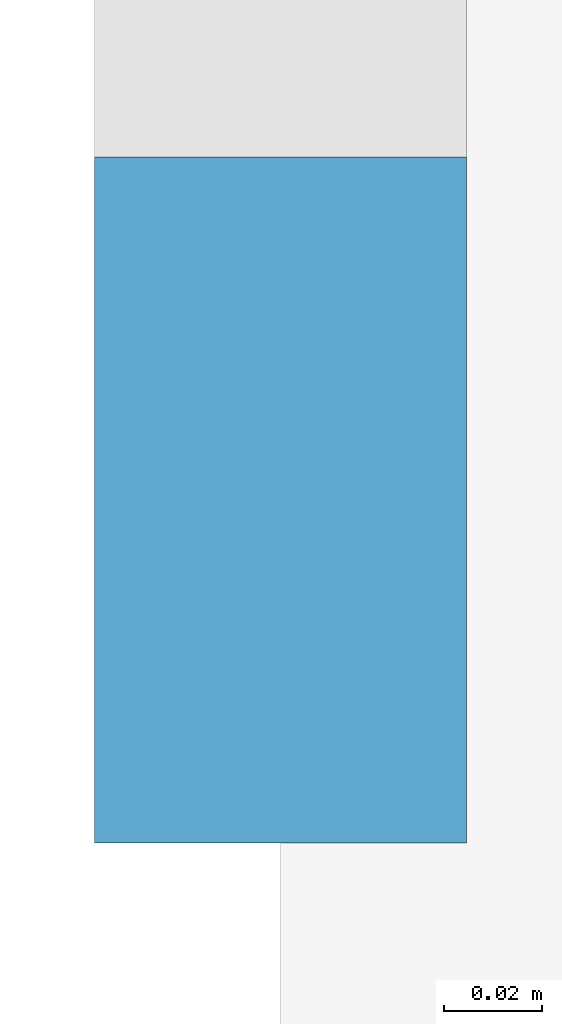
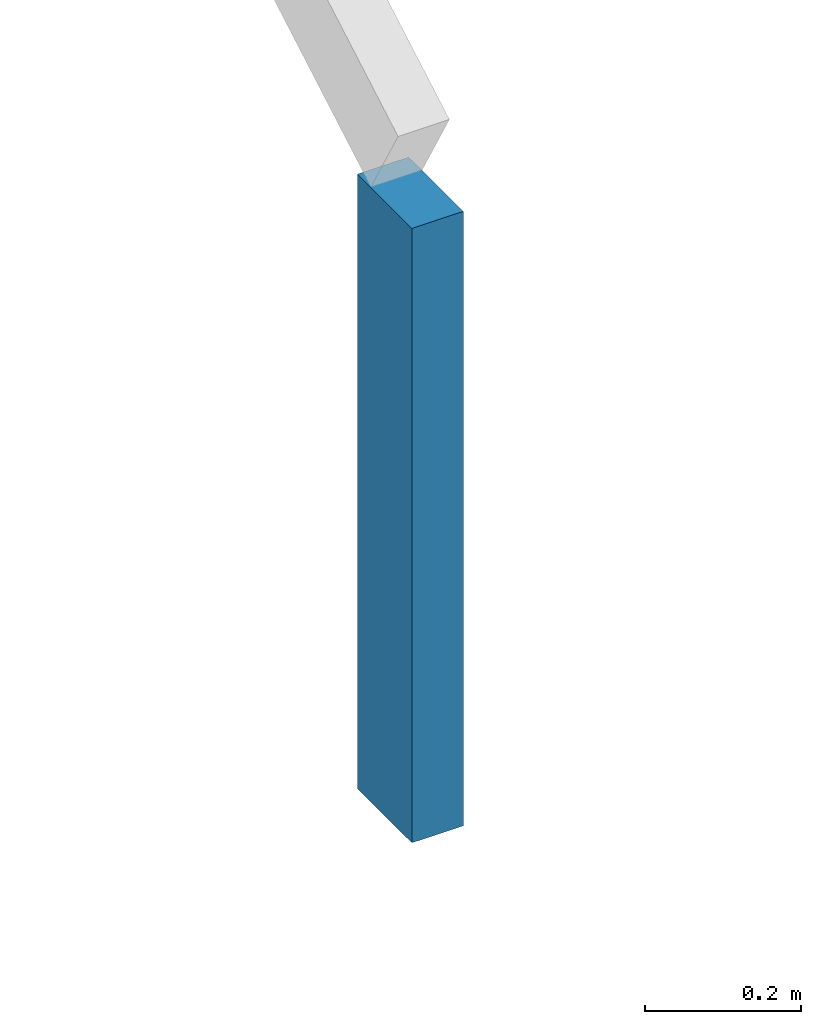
# One storey, part 97 of 153: 1 member, 1 element without a shape of its own.
"""IFC4 building model written with IfcOpenShell, lengths in metres."""

from ifc_helpers import new_model, entity, si_unit, converted_unit, derived_unit, direction, frame, origin, place, context, subcontext, project, spatial, indexed_curve, outline, extrude, source, transform, mapped, material, type_object, type_shapes, element, aggregate, save


model = new_model("IFC4")

# Units and contexts
model_context = context("Model", 3, precision=1e-05, world=origin(), true_north=direction((6.123031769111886e-17, 1.0)))
body_context = subcontext(model_context, "Body", "Model", "MODEL_VIEW")
ifc_project = project(units=[si_unit("LENGTHUNIT", "METRE"), si_unit("AREAUNIT", "SQUARE_METRE"), si_unit("VOLUMEUNIT", "CUBIC_METRE"), converted_unit("PLANEANGLEUNIT", "DEGREE", entity("IfcRatioMeasure", 0.017453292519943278), si_unit("PLANEANGLEUNIT", "RADIAN"), dimensions=[0, 0, 0, 0, 0, 0, 0]), si_unit("MASSUNIT", "GRAM", prefix="KILO"), derived_unit("MASSDENSITYUNIT", [(si_unit("MASSUNIT", "GRAM", prefix="KILO"), 1), (si_unit("LENGTHUNIT", "METRE"), -3)]), derived_unit("MOMENTOFINERTIAUNIT", [(si_unit("LENGTHUNIT", "METRE"), 4)]), si_unit("TIMEUNIT", "SECOND"), si_unit("FREQUENCYUNIT", "HERTZ"), si_unit("THERMODYNAMICTEMPERATUREUNIT", "DEGREE_CELSIUS"), derived_unit("THERMALTRANSMITTANCEUNIT", [(si_unit("MASSUNIT", "GRAM", prefix="KILO"), 1), (si_unit("THERMODYNAMICTEMPERATUREUNIT", "KELVIN"), -1), (si_unit("TIMEUNIT", "SECOND"), -3)]), derived_unit("VOLUMETRICFLOWRATEUNIT", [(si_unit("LENGTHUNIT", "METRE"), 3), (si_unit("TIMEUNIT", "SECOND"), -1)]), derived_unit("MASSFLOWRATEUNIT", [(si_unit("MASSUNIT", "GRAM", prefix="KILO"), 1), (si_unit("TIMEUNIT", "SECOND"), -1)]), derived_unit("ROTATIONALFREQUENCYUNIT", [(si_unit("TIMEUNIT", "SECOND"), -1)]), si_unit("ELECTRICCURRENTUNIT", "AMPERE"), si_unit("ELECTRICVOLTAGEUNIT", "VOLT"), si_unit("POWERUNIT", "WATT"), si_unit("FORCEUNIT", "NEWTON", prefix="KILO"), si_unit("ILLUMINANCEUNIT", "LUX"), si_unit("LUMINOUSFLUXUNIT", "LUMEN"), si_unit("LUMINOUSINTENSITYUNIT", "CANDELA"), derived_unit("USERDEFINED", [(si_unit("MASSUNIT", "GRAM", prefix="KILO"), -1), (si_unit("LENGTHUNIT", "METRE"), -2), (si_unit("TIMEUNIT", "SECOND"), 3), (si_unit("LUMINOUSFLUXUNIT", "LUMEN"), 1)]), derived_unit("SOUNDPOWERUNIT", [(si_unit("MASSUNIT", "GRAM", prefix="KILO"), 1), (si_unit("LENGTHUNIT", "METRE"), 2), (si_unit("TIMEUNIT", "SECOND"), -3)]), derived_unit("SOUNDPRESSUREUNIT", [(si_unit("MASSUNIT", "GRAM", prefix="KILO"), 1), (si_unit("LENGTHUNIT", "METRE"), -1), (si_unit("TIMEUNIT", "SECOND"), -2)]), derived_unit("LINEARVELOCITYUNIT", [(si_unit("LENGTHUNIT", "METRE"), 1), (si_unit("TIMEUNIT", "SECOND"), -1)]), si_unit("PRESSUREUNIT", "PASCAL"), derived_unit("USERDEFINED", [(si_unit("LENGTHUNIT", "METRE"), -2), (si_unit("MASSUNIT", "GRAM", prefix="KILO"), 1), (si_unit("TIMEUNIT", "SECOND"), -2)]), derived_unit("LINEARFORCEUNIT", [(si_unit("MASSUNIT", "GRAM", prefix="KILO"), 1), (si_unit("LENGTHUNIT", "METRE"), 1), (si_unit("TIMEUNIT", "SECOND"), -2), (si_unit("LENGTHUNIT", "METRE"), -1)]), derived_unit("PLANARFORCEUNIT", [(si_unit("MASSUNIT", "GRAM", prefix="KILO"), 1), (si_unit("LENGTHUNIT", "METRE"), 1), (si_unit("TIMEUNIT", "SECOND"), -2), (si_unit("LENGTHUNIT", "METRE"), -2)])], contexts=[model_context])

# Site, building, storey
site_placement = place(None, origin())
site = spatial("IfcSite", under=ifc_project, at=site_placement, Name="Superficie", CompositionType="ELEMENT")
building_placement = place(site_placement, origin())
building = spatial("IfcBuilding", under=site, at=building_placement, CompositionType="ELEMENT")
storey_placement = place(building_placement, frame((0.0, 0.0, 3.5999999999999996)))
storey = spatial("IfcBuildingStorey", under=building, at=storey_placement, Name="Nivel 1", CompositionType="ELEMENT", Elevation=3.5999999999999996)

# Assembly, member
assembly_placement = place(storey_placement, origin())
assembly = element("IfcElementAssembly", 1, at=assembly_placement, inside=storey, Name="Cercha superior:Cercha superior", ObjectType="Cercha superior:Cercha superior", AssemblyPlace="NOTDEFINED", PredefinedType="TRUSS")
ifc_material = material(Name="Madera - Madera de construcción", Category="Madera")
member_type = type_object("IfcMemberType", Name="Glulam-Pino del sur:76X140", PredefinedType="BRACE", material=ifc_material)
shared_shape = source(origin(), body_context, "Body", "SweptSolid", [
    extrude(outline(indexed_curve([(-0.06999999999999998, -0.03800000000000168), (0.06999999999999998, -0.03800000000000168), (0.06999999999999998, 0.03800000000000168), (-0.06999999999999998, 0.03800000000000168), (-0.06999999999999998, -0.03800000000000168)], self_intersect=False)), frame((-0.5110000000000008, 0.0, 0.0), z_axis=(1.0, 0.0, 0.0), x_axis=(0.0, 0.0, -1.0)), (0.0, 0.0, 1.0), 0.9610000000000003),
])
type_shapes(member_type, [shared_shape])
member_placement = place(building_placement, frame((14.597348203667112, -3.708672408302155, 20.675962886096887), z_axis=(0.0, -1.0, 0.0), x_axis=(0.0, 0.0, 1.0)))
member = element("IfcMember", 2, at=member_placement, type_object=member_type, material=ifc_material, Name="Glulam-Pino del sur:76X140", ObjectType="Glulam-Pino del sur:76X140", PredefinedType="BRACE", context=body_context, shape_type="MappedRepresentation", body=[
    mapped(shared_shape, transform((0.0, 0.0, 0.0), scale=1.0)),
])
aggregate(assembly, [member])

save(model, "model.ifc")
